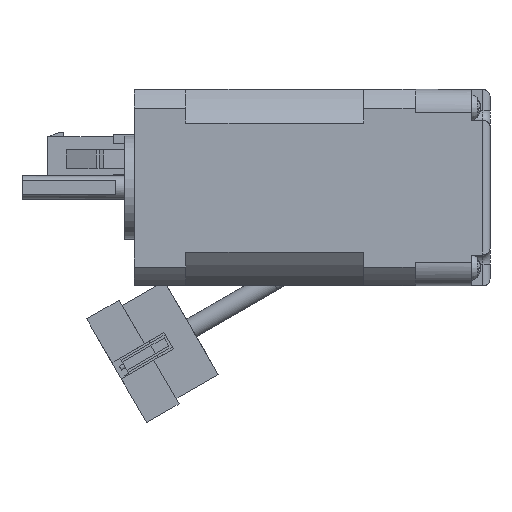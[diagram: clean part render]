
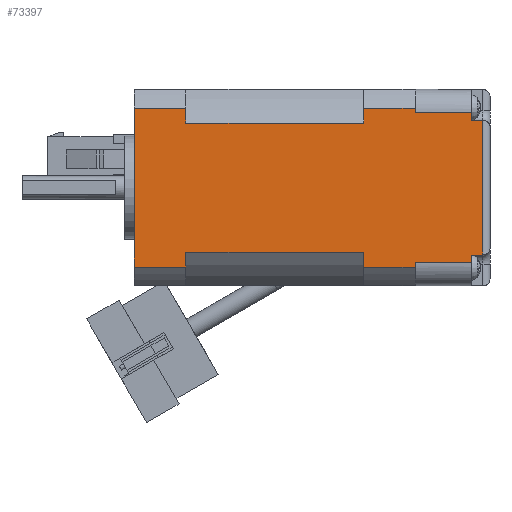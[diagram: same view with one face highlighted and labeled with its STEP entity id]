
A CAD part, front view. The second image highlights one B-rep face of the part: STEP entity #73397.
In plain terms, the highlighted planar face has unit normal (0, -1, 0).
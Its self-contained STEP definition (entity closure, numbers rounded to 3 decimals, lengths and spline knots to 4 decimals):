
#351=LINE('',#100507,#10728);
#355=LINE('',#100517,#10732);
#407=LINE('',#100700,#10784);
#408=LINE('',#100707,#10785);
#411=LINE('',#100713,#10788);
#412=LINE('',#100717,#10789);
#415=LINE('',#100731,#10792);
#416=LINE('',#100733,#10793);
#432=LINE('',#100781,#10809);
#438=LINE('',#100804,#10815);
#439=LINE('',#100806,#10816);
#459=LINE('',#100871,#10836);
#460=LINE('',#100874,#10837);
#461=LINE('',#100876,#10838);
#462=LINE('',#100878,#10839);
#463=LINE('',#100880,#10840);
#464=LINE('',#100881,#10841);
#465=LINE('',#100883,#10842);
#466=LINE('',#100885,#10843);
#467=LINE('',#100886,#10844);
#10728=VECTOR('',#81571,0.063);
#10732=VECTOR('',#81581,0.0984);
#10784=VECTOR('',#81701,0.1262);
#10785=VECTOR('',#81708,0.1262);
#10788=VECTOR('',#81715,1.4961);
#10789=VECTOR('',#81718,0.1262);
#10792=VECTOR('',#81731,0.1262);
#10793=VECTOR('',#81734,1.4961);
#10809=VECTOR('',#81776,1.3363);
#10815=VECTOR('',#81800,0.4331);
#10816=VECTOR('',#81803,0.4331);
#10836=VECTOR('',#81865,0.4331);
#10837=VECTOR('',#81868,0.0382);
#10838=VECTOR('',#81869,0.4724);
#10839=VECTOR('',#81870,0.063);
#10840=VECTOR('',#81871,0.0984);
#10841=VECTOR('',#81872,1.1339);
#10842=VECTOR('',#81873,0.4724);
#10843=VECTOR('',#81874,0.0382);
#10844=VECTOR('',#81875,0.4331);
#21124=PLANE('',#77302);
#24914=FACE_OUTER_BOUND('',#28713,.T.);
#28713=EDGE_LOOP('',(#51758,#51759,#51760,#51761,#51762,#51763,#51764,#51765,
#51766,#51767,#51768,#51769,#51770,#51771,#51772,#51773,#51774,#51775,#51776,
#51777));
#33082=VERTEX_POINT('',#100504);
#33083=VERTEX_POINT('',#100506);
#33086=VERTEX_POINT('',#100516);
#33150=VERTEX_POINT('',#100697);
#33151=VERTEX_POINT('',#100699);
#33152=VERTEX_POINT('',#100703);
#33154=VERTEX_POINT('',#100706);
#33156=VERTEX_POINT('',#100715);
#33157=VERTEX_POINT('',#100716);
#33161=VERTEX_POINT('',#100725);
#33163=VERTEX_POINT('',#100729);
#33181=VERTEX_POINT('',#100778);
#33182=VERTEX_POINT('',#100780);
#33214=VERTEX_POINT('',#100869);
#33215=VERTEX_POINT('',#100873);
#33216=VERTEX_POINT('',#100875);
#33217=VERTEX_POINT('',#100877);
#33218=VERTEX_POINT('',#100879);
#33219=VERTEX_POINT('',#100882);
#33220=VERTEX_POINT('',#100884);
#40449=EDGE_CURVE('',#33082,#33083,#351,.T.);
#40454=EDGE_CURVE('',#33083,#33086,#355,.T.);
#40530=EDGE_CURVE('',#33150,#33151,#407,.T.);
#40533=EDGE_CURVE('',#33154,#33152,#408,.T.);
#40537=EDGE_CURVE('',#33154,#33150,#411,.T.);
#40538=EDGE_CURVE('',#33156,#33157,#412,.T.);
#40545=EDGE_CURVE('',#33161,#33163,#415,.T.);
#40546=EDGE_CURVE('',#33157,#33163,#416,.T.);
#40569=EDGE_CURVE('',#33181,#33182,#432,.T.);
#40582=EDGE_CURVE('',#33181,#33161,#438,.T.);
#40583=EDGE_CURVE('',#33182,#33152,#439,.T.);
#40615=EDGE_CURVE('',#33156,#33214,#459,.T.);
#40616=EDGE_CURVE('',#33214,#33215,#460,.T.);
#40617=EDGE_CURVE('',#33215,#33216,#461,.T.);
#40618=EDGE_CURVE('',#33217,#33216,#462,.T.);
#40619=EDGE_CURVE('',#33217,#33218,#463,.T.);
#40620=EDGE_CURVE('',#33218,#33086,#464,.T.);
#40621=EDGE_CURVE('',#33219,#33082,#465,.T.);
#40622=EDGE_CURVE('',#33219,#33220,#466,.T.);
#40623=EDGE_CURVE('',#33151,#33220,#467,.T.);
#51758=ORIENTED_EDGE('',*,*,#40538,.F.);
#51759=ORIENTED_EDGE('',*,*,#40615,.T.);
#51760=ORIENTED_EDGE('',*,*,#40616,.T.);
#51761=ORIENTED_EDGE('',*,*,#40617,.T.);
#51762=ORIENTED_EDGE('',*,*,#40618,.F.);
#51763=ORIENTED_EDGE('',*,*,#40619,.T.);
#51764=ORIENTED_EDGE('',*,*,#40620,.T.);
#51765=ORIENTED_EDGE('',*,*,#40454,.F.);
#51766=ORIENTED_EDGE('',*,*,#40449,.F.);
#51767=ORIENTED_EDGE('',*,*,#40621,.F.);
#51768=ORIENTED_EDGE('',*,*,#40622,.T.);
#51769=ORIENTED_EDGE('',*,*,#40623,.F.);
#51770=ORIENTED_EDGE('',*,*,#40530,.F.);
#51771=ORIENTED_EDGE('',*,*,#40537,.F.);
#51772=ORIENTED_EDGE('',*,*,#40533,.T.);
#51773=ORIENTED_EDGE('',*,*,#40583,.F.);
#51774=ORIENTED_EDGE('',*,*,#40569,.F.);
#51775=ORIENTED_EDGE('',*,*,#40582,.T.);
#51776=ORIENTED_EDGE('',*,*,#40545,.T.);
#51777=ORIENTED_EDGE('',*,*,#40546,.F.);
#73397=ADVANCED_FACE('',(#24914),#21124,.F.);
#77302=AXIS2_PLACEMENT_3D('',#100872,#81866,#81867);
#81571=DIRECTION('',(0.,0.,-1.));
#81581=DIRECTION('',(1.,0.,0.));
#81701=DIRECTION('',(0.,0.,1.));
#81708=DIRECTION('',(0.,0.,1.));
#81715=DIRECTION('',(1.,0.,0.));
#81718=DIRECTION('',(0.,0.,1.));
#81731=DIRECTION('',(0.,0.,1.));
#81734=DIRECTION('',(-1.,0.,0.));
#81776=DIRECTION('',(0.,0.,1.));
#81800=DIRECTION('',(1.,0.,0.));
#81803=DIRECTION('',(1.,0.,0.));
#81865=DIRECTION('',(1.,0.,0.));
#81866=DIRECTION('center_axis',(0.,1.,0.));
#81867=DIRECTION('ref_axis',(1.,0.,0.));
#81868=DIRECTION('',(0.,0.,1.));
#81869=DIRECTION('',(1.,0.,0.));
#81870=DIRECTION('',(0.,0.,-1.));
#81871=DIRECTION('',(1.,0.,0.));
#81872=DIRECTION('',(0.,0.,1.));
#81873=DIRECTION('',(1.,0.,0.));
#81874=DIRECTION('',(0.,0.,1.));
#81875=DIRECTION('',(1.,0.,0.));
#100504=CARTESIAN_POINT('',(0.4724,10.8332,0.0918));
#100506=CARTESIAN_POINT('',(0.4724,10.8332,0.0288));
#100507=CARTESIAN_POINT('',(0.4724,10.8332,0.0288));
#100516=CARTESIAN_POINT('',(0.5709,10.8332,0.0288));
#100517=CARTESIAN_POINT('',(0.4724,10.8332,0.0288));
#100697=CARTESIAN_POINT('',(-0.4331,10.8332,0.0039));
#100699=CARTESIAN_POINT('',(-0.4331,10.8332,0.13));
#100700=CARTESIAN_POINT('',(-0.4331,10.8332,0.13));
#100703=CARTESIAN_POINT('',(-1.9291,10.8332,0.13));
#100706=CARTESIAN_POINT('',(-1.9291,10.8332,0.0039));
#100707=CARTESIAN_POINT('',(-1.9291,10.8332,0.13));
#100713=CARTESIAN_POINT('',(-0.4331,10.8332,0.0039));
#100715=CARTESIAN_POINT('',(-0.4331,10.8332,-1.2062));
#100716=CARTESIAN_POINT('',(-0.4331,10.8332,-1.0801));
#100717=CARTESIAN_POINT('',(-0.4331,10.8332,0.13));
#100725=CARTESIAN_POINT('',(-1.9291,10.8332,-1.2062));
#100729=CARTESIAN_POINT('',(-1.9291,10.8332,-1.0801));
#100731=CARTESIAN_POINT('',(-1.9291,10.8332,0.13));
#100733=CARTESIAN_POINT('',(-0.4331,10.8332,-1.0801));
#100778=CARTESIAN_POINT('',(-2.3622,10.8332,-1.2062));
#100780=CARTESIAN_POINT('',(-2.3622,10.8332,0.13));
#100781=CARTESIAN_POINT('',(-2.3622,10.8332,0.13));
#100804=CARTESIAN_POINT('',(-2.3622,10.8332,-1.2062));
#100806=CARTESIAN_POINT('',(-2.3622,10.8332,0.13));
#100869=CARTESIAN_POINT('',(0.,10.8332,-1.2062));
#100871=CARTESIAN_POINT('',(-2.3622,10.8332,-1.2062));
#100872=CARTESIAN_POINT('Origin',(-2.3622,10.8332,0.13));
#100873=CARTESIAN_POINT('',(0.,10.8332,-1.168));
#100874=CARTESIAN_POINT('',(0.,10.8332,0.13));
#100875=CARTESIAN_POINT('',(0.4724,10.8332,-1.168));
#100876=CARTESIAN_POINT('',(0.,10.8332,-1.168));
#100877=CARTESIAN_POINT('',(0.4724,10.8332,-1.105));
#100878=CARTESIAN_POINT('',(0.4724,10.8332,-1.105));
#100879=CARTESIAN_POINT('',(0.5709,10.8332,-1.105));
#100880=CARTESIAN_POINT('',(0.4724,10.8332,-1.105));
#100881=CARTESIAN_POINT('',(0.5709,10.8332,-2.7614));
#100882=CARTESIAN_POINT('',(0.,10.8332,0.0918));
#100883=CARTESIAN_POINT('',(0.,10.8332,0.0918));
#100884=CARTESIAN_POINT('',(0.,10.8332,0.13));
#100885=CARTESIAN_POINT('',(0.,10.8332,0.13));
#100886=CARTESIAN_POINT('',(-2.3622,10.8332,0.13));
